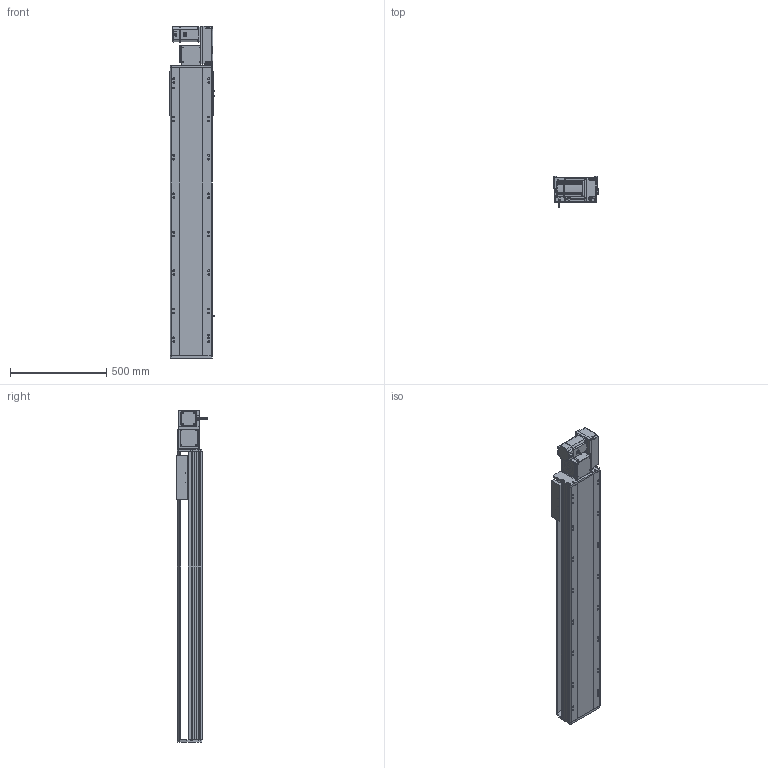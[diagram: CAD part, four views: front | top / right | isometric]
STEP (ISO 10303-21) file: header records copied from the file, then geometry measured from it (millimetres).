
FILE_DESCRIPTION (( 'STEP AP214' ), '1' );
FILE_NAME ('RTB22S-XX-1150-R-M75-C4.STEP', '2025-12-12T07:20:21', ( '' ), ( '' ), 'SwSTEP 2.0', 'SolidWorks 2018', '' );
FILE_SCHEMA (( 'AUTOMOTIVE_DESIGN' ));
Length unit declared in the file: millimetre
Products named in the file (14): RTB22S-R-々湍釱蚾饜^RTB22S-XX-XX-R-M75-C4; RTB22S-GY-018P^RTB22S-R-々湍釱蚾饜_RTB22S-XX-XX-R-M75-C4; RTB22S-L-004賑釱^RTB22S-XX-XX-R-M75-C4; RTB22S-GY-014--々湍釱^RTB22S-R-々湍釱蚾饜_RTB22S-XX-XX-R-M75-C4; RTB22S-GY-017P^RTB22S-R-々湍釱蚾饜_RTB22S-XX-XX-R-M75-C4; OMRON EE-SX672 传感器^RTB22S-XX-XX-R-M75-C4; RTB22S-GY-008-M75--萇儂啣^RTB22S-R-々湍釱蚾饜_RTB22S-XX-XX-R-M75-C4; 750W萇儂^RTB22S-XX-XX-R-M75-C4; RTB22S-GY-007奻裔^RTB22S-XX-XX-R-M75-C4; RTB22S-L-011菁釱^RTB22S-XX-XX-R-M75-C4; RTB22S-XX-1150-R-M75-C4; RTB22S-GY-005P^RTB22S-R-々湍釱蚾饜_RTB22S-XX-XX-R-M75-C4; RTB22S-GY-001耜裔^RTB22S-XX-XX-R-M75-C4; RTH22-GY-013外置感应片^RTB22S-XX-XX-R-M75-C4
Assembly tree (16 placements, depth 3):
  RTB22S-XX-1150-R-M75-C4
    RTB22S-L-011菁釱^RTB22S-XX-XX-R-M75-C4
    RTB22S-GY-001耜裔^RTB22S-XX-XX-R-M75-C4
    750W萇儂^RTB22S-XX-XX-R-M75-C4
    RTB22S-GY-007奻裔^RTB22S-XX-XX-R-M75-C4
    RTB22S-L-004賑釱^RTB22S-XX-XX-R-M75-C4
    RTH22-GY-013外置感应片^RTB22S-XX-XX-R-M75-C4
    OMRON EE-SX672 传感器^RTB22S-XX-XX-R-M75-C4  x3
    RTB22S-R-々湍釱蚾饜^RTB22S-XX-XX-R-M75-C4
      RTB22S-GY-014--々湍釱^RTB22S-R-々湍釱蚾饜_RTB22S-XX-XX-R-M75-C4
      RTB22S-GY-017P^RTB22S-R-々湍釱蚾饜_RTB22S-XX-XX-R-M75-C4  x2
      RTB22S-GY-005P^RTB22S-R-々湍釱蚾饜_RTB22S-XX-XX-R-M75-C4
      RTB22S-GY-008-M75--萇儂啣^RTB22S-R-々湍釱蚾饜_RTB22S-XX-XX-R-M75-C4
      RTB22S-GY-018P^RTB22S-R-々湍釱蚾饜_RTB22S-XX-XX-R-M75-C4
Bounding box: 238.5 x 162.7 x 1729 mm (x, y, z)
Volume: 23037995.4 mm3; surface area: 2390665.7 mm2
Topology: 15 solids, 15 shells, 1983 faces, 5386 edges, 3452 vertices
Faces by surface type: plane 915, cylinder 622, bspline 296, cone 138, sphere 8, torus 4
Entity records: 52768 total; most frequent: CARTESIAN_POINT 15172, ORIENTED_EDGE 7560, DIRECTION 7274, EDGE_CURVE 3780, AXIS2_PLACEMENT_3D 2566, VERTEX_POINT 2456, LINE 2142, VECTOR 2142
